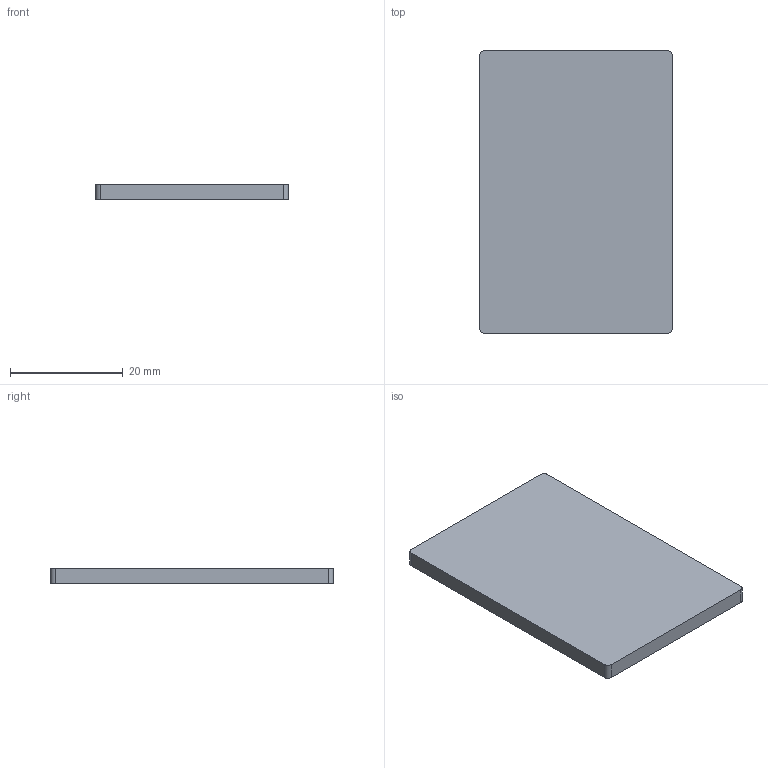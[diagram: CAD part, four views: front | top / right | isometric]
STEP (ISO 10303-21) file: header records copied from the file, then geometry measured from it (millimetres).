
FILE_DESCRIPTION(('Open CASCADE Model'),'2;1');
FILE_NAME('Open CASCADE Shape Model','2026-11-25T12:44:30',('Author'),( 'Open CASCADE'),'Open CASCADE STEP processor 7.9','Open CASCADE 7.9' ,'Unknown');
FILE_SCHEMA(('AUTOMOTIVE_DESIGN { 1 0 10303 214 1 1 1 1 }'));
Length unit declared in the file: millimetre
Products named in the file (1): Open CASCADE STEP translator 7.9 3
Bounding box: 34.2 x 50.2 x 2.8 mm (x, y, z)
Volume: 4805.6 mm3; surface area: 3901.4 mm2
Topology: 1 solids, 1 shells, 10 faces, 24 edges, 16 vertices
Faces by surface type: plane 6, cylinder 4
Entity records: 630 total; most frequent: CARTESIAN_POINT 123, DIRECTION 98, LINE 56, VECTOR 56, ORIENTED_EDGE 48, PCURVE 48, DEFINITIONAL_REPRESENTATION 48, EDGE_CURVE 24
